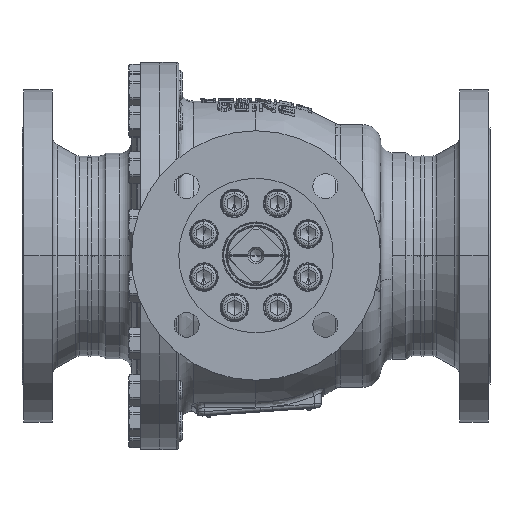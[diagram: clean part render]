
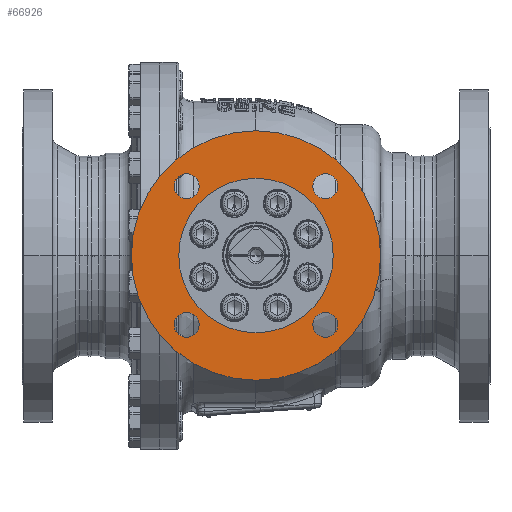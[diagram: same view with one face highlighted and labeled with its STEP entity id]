
A CAD part, top view. The second image highlights one B-rep face of the part: STEP entity #66926.
In plain terms, the highlighted planar face has unit normal (0, 0, 1).
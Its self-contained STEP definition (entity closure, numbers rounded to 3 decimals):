
#266=CARTESIAN_POINT('',(0.,0.,233.));
#267=DIRECTION('',(0.,0.,1.));
#268=DIRECTION('',(1.,0.,0.));
#269=AXIS2_PLACEMENT_3D('',#266,#267,#268);
#271=CARTESIAN_POINT('',(0.,0.,233.));
#272=DIRECTION('',(0.,0.,-1.));
#273=DIRECTION('',(1.,0.,0.));
#274=AXIS2_PLACEMENT_3D('',#271,#272,#273);
#276=CARTESIAN_POINT('',(58.336,-58.336,233.));
#277=DIRECTION('',(0.,0.,-1.));
#278=DIRECTION('',(-1.,0.,0.));
#279=AXIS2_PLACEMENT_3D('',#276,#277,#278);
#281=CARTESIAN_POINT('',(58.336,-58.336,233.));
#282=DIRECTION('',(0.,0.,-1.));
#283=DIRECTION('',(1.,0.,0.));
#284=AXIS2_PLACEMENT_3D('',#281,#282,#283);
#286=CARTESIAN_POINT('',(-58.336,-58.336,233.));
#287=DIRECTION('',(0.,0.,-1.));
#288=DIRECTION('',(0.,1.,0.));
#289=AXIS2_PLACEMENT_3D('',#286,#287,#288);
#291=CARTESIAN_POINT('',(-58.336,-58.336,233.));
#292=DIRECTION('',(0.,0.,-1.));
#293=DIRECTION('',(0.,-1.,0.));
#294=AXIS2_PLACEMENT_3D('',#291,#292,#293);
#296=CARTESIAN_POINT('',(-58.336,58.336,233.));
#297=DIRECTION('',(0.,0.,-1.));
#298=DIRECTION('',(1.,0.,0.));
#299=AXIS2_PLACEMENT_3D('',#296,#297,#298);
#301=CARTESIAN_POINT('',(-58.336,58.336,233.));
#302=DIRECTION('',(0.,0.,-1.));
#303=DIRECTION('',(-1.,0.,0.));
#304=AXIS2_PLACEMENT_3D('',#301,#302,#303);
#306=CARTESIAN_POINT('',(58.336,58.336,233.));
#307=DIRECTION('',(0.,0.,-1.));
#308=DIRECTION('',(0.,-1.,0.));
#309=AXIS2_PLACEMENT_3D('',#306,#307,#308);
#311=CARTESIAN_POINT('',(58.336,58.336,233.));
#312=DIRECTION('',(0.,0.,-1.));
#313=DIRECTION('',(0.,1.,0.));
#314=AXIS2_PLACEMENT_3D('',#311,#312,#313);
#320=CARTESIAN_POINT('',(0.,0.,233.));
#321=DIRECTION('',(0.,0.,-1.));
#322=DIRECTION('',(1.,0.,0.));
#323=AXIS2_PLACEMENT_3D('',#320,#321,#322);
#329=CARTESIAN_POINT('',(0.,0.,233.));
#330=DIRECTION('',(0.,0.,1.));
#331=DIRECTION('',(1.,0.,0.));
#332=AXIS2_PLACEMENT_3D('',#329,#330,#331);
#60284=CARTESIAN_POINT('',(65.,0.,233.));
#60286=VERTEX_POINT('',#60284);
#60288=CARTESIAN_POINT('',(-65.,0.,233.));
#60290=VERTEX_POINT('',#60288);
#60292=CARTESIAN_POINT('',(105.,0.,233.));
#60293=CARTESIAN_POINT('',(-105.,0.,233.));
#60294=VERTEX_POINT('',#60292);
#60295=VERTEX_POINT('',#60293);
#60348=CARTESIAN_POINT('',(47.836,-58.336,233.));
#60349=CARTESIAN_POINT('',(68.836,-58.336,233.));
#60350=VERTEX_POINT('',#60348);
#60351=VERTEX_POINT('',#60349);
#60352=CARTESIAN_POINT('',(-58.336,-47.836,233.));
#60353=CARTESIAN_POINT('',(-58.336,-68.836,233.));
#60354=VERTEX_POINT('',#60352);
#60355=VERTEX_POINT('',#60353);
#60356=CARTESIAN_POINT('',(-47.836,58.336,233.));
#60357=CARTESIAN_POINT('',(-68.836,58.336,233.));
#60358=VERTEX_POINT('',#60356);
#60359=VERTEX_POINT('',#60357);
#60360=CARTESIAN_POINT('',(58.336,47.836,233.));
#60361=CARTESIAN_POINT('',(58.336,68.836,233.));
#60362=VERTEX_POINT('',#60360);
#60363=VERTEX_POINT('',#60361);
#66887=CARTESIAN_POINT('',(0.,0.,233.));
#66888=DIRECTION('',(0.,0.,1.));
#66889=DIRECTION('',(1.,0.,0.));
#66890=AXIS2_PLACEMENT_3D('',#66887,#66888,#66889);
#66891=PLANE('',#66890);
#66892=ORIENTED_EDGE('',*,*,#66867,.F.);
#66893=ORIENTED_EDGE('',*,*,#66881,.T.);
#66894=EDGE_LOOP('',(#66892,#66893));
#66895=FACE_OUTER_BOUND('',#66894,.F.);
#66897=ORIENTED_EDGE('',*,*,#66896,.F.);
#66899=ORIENTED_EDGE('',*,*,#66898,.T.);
#66900=EDGE_LOOP('',(#66897,#66899));
#66901=FACE_BOUND('',#66900,.F.);
#66903=ORIENTED_EDGE('',*,*,#66902,.F.);
#66905=ORIENTED_EDGE('',*,*,#66904,.F.);
#66906=EDGE_LOOP('',(#66903,#66905));
#66907=FACE_BOUND('',#66906,.F.);
#66909=ORIENTED_EDGE('',*,*,#66908,.F.);
#66911=ORIENTED_EDGE('',*,*,#66910,.F.);
#66912=EDGE_LOOP('',(#66909,#66911));
#66913=FACE_BOUND('',#66912,.F.);
#66915=ORIENTED_EDGE('',*,*,#66914,.F.);
#66917=ORIENTED_EDGE('',*,*,#66916,.F.);
#66918=EDGE_LOOP('',(#66915,#66917));
#66919=FACE_BOUND('',#66918,.F.);
#66921=ORIENTED_EDGE('',*,*,#66920,.F.);
#66923=ORIENTED_EDGE('',*,*,#66922,.F.);
#66924=EDGE_LOOP('',(#66921,#66923));
#66925=FACE_BOUND('',#66924,.F.);
#66926=ADVANCED_FACE('',(#66895,#66901,#66907,#66913,#66919,#66925),#66891,.T.);
#270=CIRCLE('',#269,105.);
#275=CIRCLE('',#274,105.);
#280=CIRCLE('',#279,10.5);
#285=CIRCLE('',#284,10.5);
#290=CIRCLE('',#289,10.5);
#295=CIRCLE('',#294,10.5);
#300=CIRCLE('',#299,10.5);
#305=CIRCLE('',#304,10.5);
#310=CIRCLE('',#309,10.5);
#315=CIRCLE('',#314,10.5);
#324=CIRCLE('',#323,65.);
#333=CIRCLE('',#332,65.);
#66867=EDGE_CURVE('',#60294,#60295,#270,.T.);
#66881=EDGE_CURVE('',#60294,#60295,#275,.T.);
#66896=EDGE_CURVE('',#60286,#60290,#324,.T.);
#66898=EDGE_CURVE('',#60286,#60290,#333,.T.);
#66902=EDGE_CURVE('',#60350,#60351,#280,.T.);
#66904=EDGE_CURVE('',#60351,#60350,#285,.T.);
#66908=EDGE_CURVE('',#60354,#60355,#290,.T.);
#66910=EDGE_CURVE('',#60355,#60354,#295,.T.);
#66914=EDGE_CURVE('',#60358,#60359,#300,.T.);
#66916=EDGE_CURVE('',#60359,#60358,#305,.T.);
#66920=EDGE_CURVE('',#60362,#60363,#310,.T.);
#66922=EDGE_CURVE('',#60363,#60362,#315,.T.);
